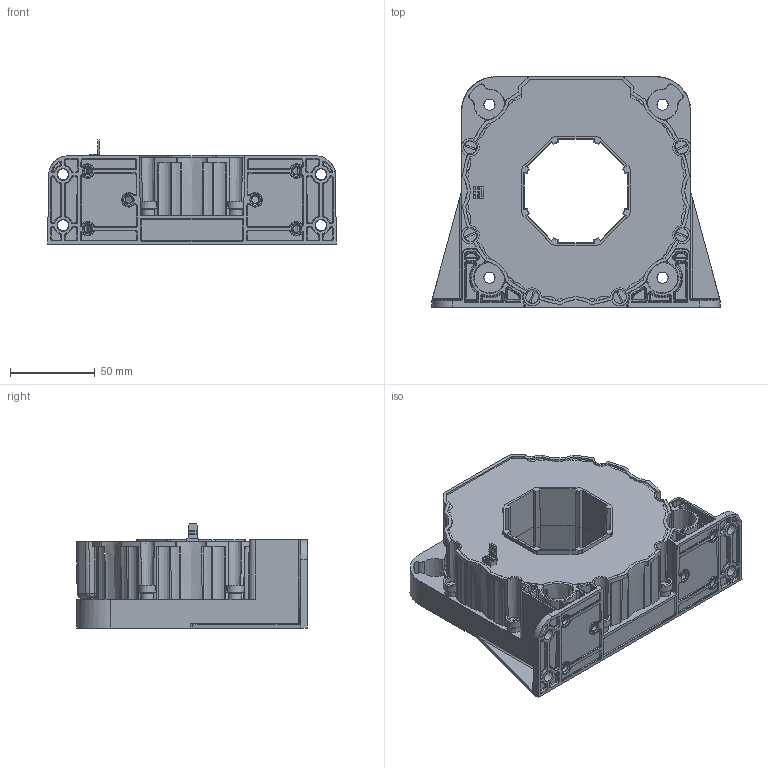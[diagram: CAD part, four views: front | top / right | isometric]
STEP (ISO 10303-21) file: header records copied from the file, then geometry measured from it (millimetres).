
FILE_DESCRIPTION((''),'2;1');
FILE_NAME('Z:\CAPM\Capteur effet hall\Produits\Gamme de produit standard\Fichier comerciaux\MSA2005.stp','2012-02-17T13:19:48',('lm'),(''),'Autodesk Inventor 2012','Autodesk Inventor 2012','');
FILE_SCHEMA(('AUTOMOTIVE_DESIGN { 1 0 10303 214 1 1 1 1 }'));
Length unit declared in the file: millimetre
Products named in the file (1): MSA2005-S-0026_Enveloppe_1
Bounding box: 170 x 136 x 61.3 mm (x, y, z)
Surface area: 158929.7 mm2 (no closed solid volume)
Topology: 0 solids, 51 shells, 1655 faces, 5859 edges, 4110 vertices
Faces by surface type: plane 503, bspline 429, cone 308, cylinder 258, torus 150, sphere 6, revolution 1
Entity records: 84201 total; most frequent: CARTESIAN_POINT 37239, ORIENTED_EDGE 8990, DIRECTION 8369, EDGE_CURVE 5804, VERTEX_POINT 4084, AXIS2_PLACEMENT_3D 3378, B_SPLINE_CURVE_WITH_KNOTS 1893, EDGE_LOOP 1829
